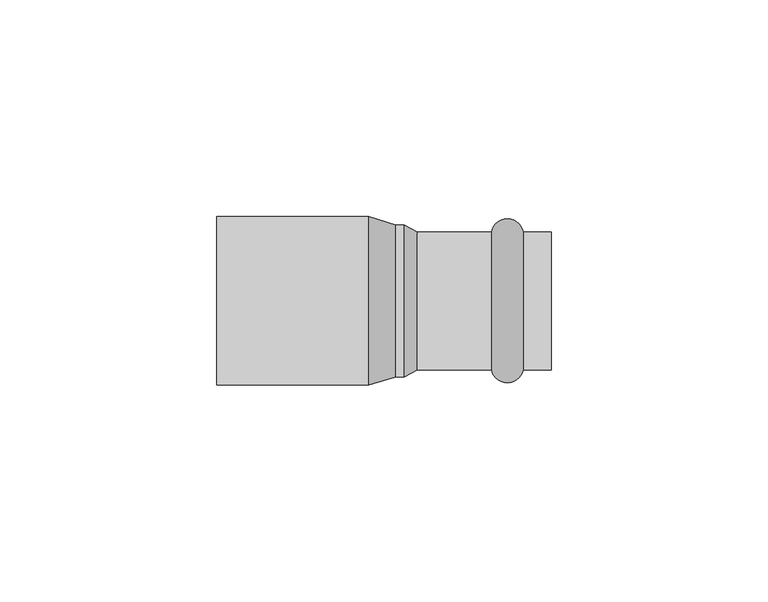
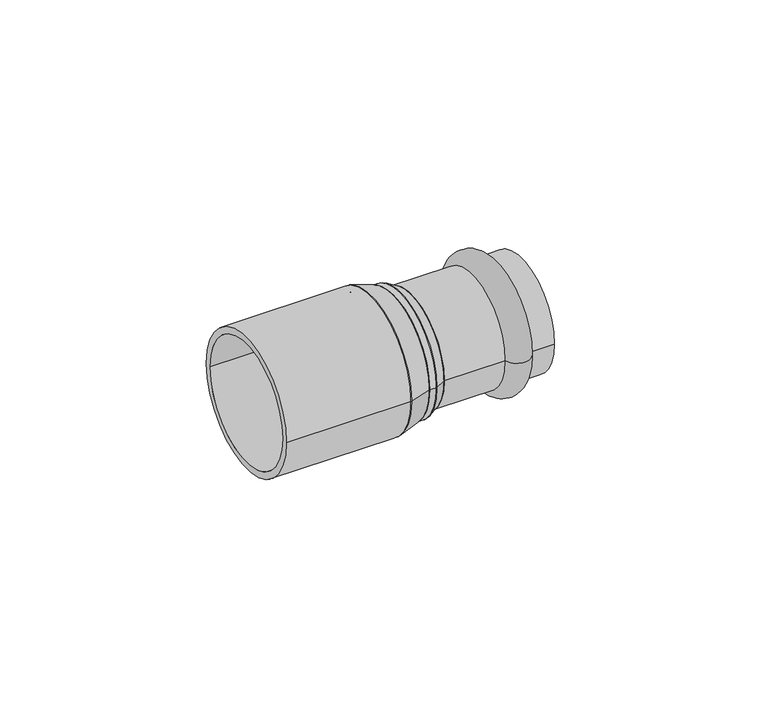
"""IFC4 building model written with IfcOpenShell, lengths in millimetres: pipe fitting geometry, VALTEC_VTi.905.I_Вставка переходная_Нержавеющая сталь : VTi.905.I."""

import ifcopenshell
import ifcopenshell.guid

model = None  # the IFC model being written
_history = None  # IfcOwnerHistory: only IFC2X3 demands one
_inside = {}  # id of a spatial element -> (the spatial element, [elements in it])
_under = {}  # id of a project, library or spatial element -> (it, [spatial elements below it])
_declared = {}  # id of a project -> (the project, [libraries it declares])
_typed = {}  # id of a type object -> (the type object, [elements of that type])
_made_of = {}  # id of a material, layer set ... -> (it, [elements and type objects made of it])


def new_model(schema):
    """Start an empty IFC model of exactly this schema.

    Asked for "IFC4X3", IfcOpenShell would pick the latest addendum, in which some entities
    have other attributes; the version numbers below select the first issue.
    IFC2X3 requires an IfcOwnerHistory on every rooted entity: one is made here for all.
    """
    global model, _history
    if schema == "IFC4X3":
        model = ifcopenshell.file(schema_version=(4, 3, 0, 0))
    else:
        model = ifcopenshell.file(schema=schema)
    _inside.clear()
    _under.clear()
    _declared.clear()
    _typed.clear()
    _made_of.clear()
    _history = None
    if model.schema == "IFC2X3":
        org = make("IfcOrganization", Name="unknown")
        user = make(
            "IfcPersonAndOrganization",
            ThePerson=make("IfcPerson", FamilyName="unknown"),
            TheOrganization=org,
        )
        app = make(
            "IfcApplication",
            ApplicationDeveloper=org,
            Version="unknown",
            ApplicationFullName="unknown",
            ApplicationIdentifier="unknown",
        )
        _history = make(
            "IfcOwnerHistory",
            OwningUser=user,
            OwningApplication=app,
            ChangeAction="ADDED",
            CreationDate=0,
        )
    return model


def make(cls, **values):
    """One entity of the class cls with the attributes given. An attribute that is None is left unset."""
    return model.create_entity(
        cls, **{name: value for name, value in values.items() if value is not None}
    )


def rooted(cls, **values):
    """An entity with a GlobalId (a new one), such as an element, a storey or a relation."""
    return make(cls, GlobalId=ifcopenshell.guid.new(), OwnerHistory=_history, **values)


def si_unit(unit_type, name, prefix=None):
    """IfcSIUnit, for example si_unit("LENGTHUNIT", "METRE", prefix="MILLI")."""
    return make("IfcSIUnit", UnitType=unit_type, Prefix=prefix, Name=name)


def assignment(units):
    """IfcUnitAssignment: the units of a project."""
    return None if units is None else make("IfcUnitAssignment", Units=units)


def point(xyz):
    """IfcCartesianPoint."""
    return None if xyz is None else make("IfcCartesianPoint", Coordinates=xyz)


def direction(xyz):
    """IfcDirection."""
    return None if xyz is None else make("IfcDirection", DirectionRatios=xyz)


def frame(location, z_axis=None, x_axis=None):
    """IfcAxis2Placement3D, a coordinate frame: its origin and axes. An axis left out is left unset."""
    return make(
        "IfcAxis2Placement3D",
        Location=point(location),
        Axis=direction(z_axis),
        RefDirection=direction(x_axis),
    )


def frame_2d(location, x_axis=None):
    """IfcAxis2Placement2D, a coordinate frame in the plane: its origin and x axis."""
    return make(
        "IfcAxis2Placement2D", Location=point(location), RefDirection=direction(x_axis)
    )


def origin():
    """The frame at (0, 0, 0) with its axes left unset."""
    return frame((0.0, 0.0, 0.0))


def origin_2d():
    """The frame at (0, 0) in the plane with its x axis left unset."""
    return frame_2d((0.0, 0.0))


def place(relative_to, where):
    """IfcLocalPlacement: puts the frame where relative to a parent placement (None: the world)."""
    return make(
        "IfcLocalPlacement", PlacementRelTo=relative_to, RelativePlacement=where
    )


def context(
    kind, dimensions, precision=None, world=None, true_north=None, identifier=None
):
    """IfcGeometricRepresentationContext, for example the 3D "Model" context."""
    return make(
        "IfcGeometricRepresentationContext",
        ContextIdentifier=identifier,
        ContextType=kind,
        CoordinateSpaceDimension=dimensions,
        Precision=precision,
        WorldCoordinateSystem=world,
        TrueNorth=true_north,
    )


def project(units=None, contexts=None):
    """IfcProject with its units and contexts."""
    return rooted(
        "IfcProject",
        Name="project",
        RepresentationContexts=contexts,
        UnitsInContext=assignment(units),
    )


def spatial(cls, under=None, at=None, **own):
    """A site, building, storey or space (cls), placed at a placement, below another one or the project."""
    s = rooted(cls, ObjectPlacement=at, **own)
    if under is not None:
        _under.setdefault(under.id(), (under, []))[1].append(s)
    return s


def polyline(points):
    """IfcPolyline through the points."""
    return make("IfcPolyline", Points=[point(p) for p in points])


def circle_curve(where, radius):
    """IfcCircle in the frame where."""
    return make("IfcCircle", Position=where, Radius=radius)


def ellipse_curve(where, semi_axis1, semi_axis2):
    """IfcEllipse in the frame where."""
    return make(
        "IfcEllipse", Position=where, SemiAxis1=semi_axis1, SemiAxis2=semi_axis2
    )


def trimmed(basis, trim1, trim2, sense, master):
    """IfcTrimmedCurve: the piece of a basis curve between two trims."""
    return make(
        "IfcTrimmedCurve",
        BasisCurve=basis,
        Trim1=trim1,
        Trim2=trim2,
        SenseAgreement=sense,
        MasterRepresentation=master,
    )


def segment(curve, same_sense, transition):
    """IfcCompositeCurveSegment."""
    return make(
        "IfcCompositeCurveSegment",
        Transition=transition,
        SameSense=same_sense,
        ParentCurve=curve,
    )


def composite_curve(segments, self_intersect=None):
    """IfcCompositeCurve: segments joined end to end."""
    return make("IfcCompositeCurve", Segments=segments, SelfIntersect=self_intersect)


def outline(outer, holes=None, kind="AREA"):
    """IfcArbitraryClosedProfileDef: a profile drawn as a closed curve; with holes, ...WithVoids."""
    if holes is None:
        return make("IfcArbitraryClosedProfileDef", ProfileType=kind, OuterCurve=outer)
    return make(
        "IfcArbitraryProfileDefWithVoids",
        ProfileType=kind,
        OuterCurve=outer,
        InnerCurves=holes,
    )


def extrude(swept, where, along, depth):
    """IfcExtrudedAreaSolid: the profile swept, set in the frame where, extruded along a direction by depth."""
    return make(
        "IfcExtrudedAreaSolid",
        SweptArea=swept,
        Position=where,
        ExtrudedDirection=direction(along),
        Depth=depth,
    )


def shape(context_of_items, identifier, shape_type, items):
    """IfcShapeRepresentation: the items that make up one representation, for example the "Body"."""
    return make(
        "IfcShapeRepresentation",
        ContextOfItems=context_of_items,
        RepresentationIdentifier=identifier,
        RepresentationType=shape_type,
        Items=items,
    )


def source(mapping_origin, context_of_items, identifier, shape_type, items):
    """IfcRepresentationMap: a shape defined once, which mapped items show again and again."""
    return make(
        "IfcRepresentationMap",
        MappingOrigin=mapping_origin,
        MappedRepresentation=shape(context_of_items, identifier, shape_type, items),
    )


def transform(
    local_origin,
    x_axis=None,
    y_axis=None,
    z_axis=None,
    scale=None,
    scale2=None,
    scale3=None,
    uniform=True,
):
    """IfcCartesianTransformationOperator3D, or its non-uniform kind. x_axis, y_axis, z_axis: its Axis1, 2, 3."""
    if uniform:
        return make(
            "IfcCartesianTransformationOperator3D",
            Axis1=direction(x_axis),
            Axis2=direction(y_axis),
            LocalOrigin=point(local_origin),
            Scale=scale,
            Axis3=direction(z_axis),
        )
    return make(
        "IfcCartesianTransformationOperator3DnonUniform",
        Axis1=direction(x_axis),
        Axis2=direction(y_axis),
        LocalOrigin=point(local_origin),
        Scale=scale,
        Axis3=direction(z_axis),
        Scale2=scale2,
        Scale3=scale3,
    )


def mapped(mapping_source, mapping_target):
    """IfcMappedItem: shows the shape of a source again, moved by a transform."""
    return make(
        "IfcMappedItem", MappingSource=mapping_source, MappingTarget=mapping_target
    )


def made_of(thing, what):
    """Note that an element or type object is made of a material, layer set ...; save() writes the relation."""
    if what is not None:
        _made_of.setdefault(what.id(), (what, []))[1].append(thing)
    return thing


def element(
    cls,
    number,
    at=None,
    inside=None,
    cuts=None,
    type_object=None,
    material=None,
    context=None,
    identifier="Body",
    shape_type=None,
    held_by="IfcProductDefinitionShape",
    body=None,
    shapes=None,
    **own,
):
    """One element of the class cls, such as IfcWall. Its Tag is "e" and its number.

    at: its placement. inside: the storey or other place that contains it. cuts: it is an
    opening in that element (IfcRelVoidsElement). A single representation is given by context,
    identifier, shape_type and body (its items); several are given by shapes. held_by: the class
    of the entity that holds the representations. save() writes the other relations.
    """
    e = rooted(cls, Tag="e%d" % number, ObjectPlacement=at, **own)
    if body is not None:
        shapes = [shape(context, identifier, shape_type, body)]
    if shapes is not None:
        e.Representation = make(held_by, Representations=shapes)
    if inside is not None:
        _inside.setdefault(inside.id(), (inside, []))[1].append(e)
    if cuts is not None:
        rooted(
            "IfcRelVoidsElement", RelatingBuildingElement=cuts, RelatedOpeningElement=e
        )
    if type_object is not None:
        _typed.setdefault(type_object.id(), (type_object, []))[1].append(e)
    return made_of(e, material)


def aggregate(whole, parts):
    """IfcRelAggregates: a whole, such as a stair, and the parts it consists of."""
    return rooted("IfcRelAggregates", RelatingObject=whole, RelatedObjects=parts)


def save(model, path):
    """Write the relations noted so far, then the file.

    IfcRelAggregates (storeys below a building ...), IfcRelContainedInSpatialStructure (elements
    in a storey), IfcRelDefinesByType, IfcRelAssociatesMaterial and IfcRelDeclares: one each for
    every whole, place, type object, material and project.
    """
    for whole, parts in _under.values():
        aggregate(whole, parts)
    for where, things in _inside.values():
        rooted(
            "IfcRelContainedInSpatialStructure",
            RelatedElements=things,
            RelatingStructure=where,
        )
    for kind, things in _typed.values():
        rooted("IfcRelDefinesByType", RelatedObjects=things, RelatingType=kind)
    for what, things in _made_of.values():
        rooted("IfcRelAssociatesMaterial", RelatedObjects=things, RelatingMaterial=what)
    for by, libraries in _declared.values():
        rooted("IfcRelDeclares", RelatingContext=by, RelatedDefinitions=libraries)
    model.write(path)


def plane_surface(at):
    """IfcPlane: the flat surface through the origin of the frame at, square to its z axis."""
    return make("IfcPlane", Position=at)


def cylinder_surface(at, radius):
    """IfcCylindricalSurface: all points at the distance radius from the z axis of the frame at."""
    return make("IfcCylindricalSurface", Position=at, Radius=radius)


def revolved_surface(curve, axis_point, axis_direction):
    """IfcSurfaceOfRevolution: the curve turned about the line through axis_point along axis_direction."""
    return make(
        "IfcSurfaceOfRevolution",
        SweptCurve=make("IfcArbitraryOpenProfileDef", ProfileType="CURVE", Curve=curve),
        AxisPosition=make("IfcAxis1Placement", Location=point(axis_point), Axis=direction(axis_direction)),
    )


def advanced_brep(points, edges, surfaces, faces):
    """IfcAdvancedBrep: a solid bounded by faces that lie on surfaces and meet in shared edges.

    An edge is (start, end): straight between two places in points (the first is 0);
    or (start, end, curve); or (start, end, curve, False) where it runs against its curve.
    A face is (place in surfaces, loops), or (place, loops, False) where it looks against
    its surface's normal. A loop lists edges by number (the first is 1), with a minus sign
    where the edge is run from its end to its start. The first loop is the outer one.
    """
    corners = [point(p) for p in points]
    vertices = [make("IfcVertexPoint", VertexGeometry=c) for c in corners]
    made = []
    for start, end, *more in edges:
        made.append(
            make(
                "IfcEdgeCurve",
                EdgeStart=vertices[start],
                EdgeEnd=vertices[end],
                EdgeGeometry=more[0] if more else make("IfcPolyline", Points=[corners[start], corners[end]]),
                SameSense=more[1] if len(more) > 1 else True,
            )
        )
    hull = []
    for where, loops, *sense in faces:
        bounds = []
        for j, loop in enumerate(loops):
            ring = [make("IfcOrientedEdge", EdgeElement=made[abs(k) - 1], Orientation=k > 0) for k in loop]
            bounds.append(
                make(
                    "IfcFaceOuterBound" if j == 0 else "IfcFaceBound",
                    Bound=make("IfcEdgeLoop", EdgeList=ring),
                    Orientation=True,
                )
            )
        hull.append(make("IfcAdvancedFace", Bounds=bounds, FaceSurface=surfaces[where], SameSense=sense[0] if sense else True))
    return make("IfcAdvancedBrep", Outer=make("IfcClosedShell", CfsFaces=hull))


def pipe_fitting_55004db6(model_context):
    return source(origin(), model_context, "Body", "SolidModel", [
        advanced_brep(
        [(32.1242346, -15.9, 0.0), (24.7757654, -15.9, 0.0), (24.7757654, 15.9, 0.0), (32.1242346, 15.9, 0.0), (38.5, -15.9, 0.0), (38.5, 15.9, 0.0), (38.5, -14.0, 0.0), (38.5, 14.0, 0.0), (7.7, -14.0, 0.0), (7.7, 14.0, 0.0), (7.7, -15.9, 0.0), (7.7, 15.9, 0.0)],
        [
            (0, 1, circle_curve(frame((28.45, -15.15, 0.0), z_axis=(0.0, 0.0, -1.0), x_axis=(-1.0, 0.0, 0.0)), 3.75)),
            (1, 2, circle_curve(frame((24.7757654, 0.0, 0.0), z_axis=(1.0, 0.0, 0.0), x_axis=(0.0, 1.0, 0.0)), 15.9)),
            (2, 3, circle_curve(frame((28.45, 15.15, 0.0), z_axis=(0.0, 0.0, -1.0), x_axis=(-1.0, 0.0, 0.0)), 3.75)),
            (3, 0, circle_curve(frame((32.1242346, 0.0, 0.0), z_axis=(-1.0, 0.0, 0.0), x_axis=(0.0, 1.0, 0.0)), 15.9)),
            (2, 1, circle_curve(frame((24.7757654, 0.0, 0.0), z_axis=(1.0, 0.0, 0.0), x_axis=(0.0, 1.0, 0.0)), 15.9)),
            (0, 3, circle_curve(frame((32.1242346, 0.0, 0.0), z_axis=(-1.0, 0.0, 0.0), x_axis=(0.0, 1.0, 0.0)), 15.9)),
            (4, 0),
            (3, 5),
            (5, 4, circle_curve(frame((38.5, 0.0, 0.0), z_axis=(-1.0, 0.0, 0.0), x_axis=(0.0, 1.0, 0.0)), 15.9)),
            (4, 5, circle_curve(frame((38.5, 0.0, 0.0), z_axis=(-1.0, 0.0, 0.0), x_axis=(0.0, 1.0, 0.0)), 15.9)),
            (6, 4),
            (5, 7),
            (7, 6, circle_curve(frame((38.5, 0.0, 0.0), z_axis=(-1.0, 0.0, 0.0), x_axis=(0.0, 1.0, 0.0)), 14.0)),
            (6, 7, circle_curve(frame((38.5, 0.0, 0.0), z_axis=(-1.0, 0.0, 0.0), x_axis=(0.0, 1.0, 0.0)), 14.0)),
            (8, 6),
            (7, 9),
            (9, 8, circle_curve(frame((7.7, 0.0, 0.0), z_axis=(-1.0, 0.0, 0.0), x_axis=(0.0, 1.0, 0.0)), 14.0)),
            (8, 9, circle_curve(frame((7.7, 0.0, 0.0), z_axis=(-1.0, 0.0, 0.0), x_axis=(0.0, 1.0, 0.0)), 14.0)),
            (10, 8),
            (9, 11),
            (11, 10, circle_curve(frame((7.7, 0.0, 0.0), z_axis=(-1.0, 0.0, 0.0), x_axis=(0.0, 1.0, 0.0)), 15.9)),
            (10, 11, circle_curve(frame((7.7, 0.0, 0.0), z_axis=(-1.0, 0.0, 0.0), x_axis=(0.0, 1.0, 0.0)), 15.9)),
            (1, 10),
            (11, 2),
        ],
        [
            revolved_surface(trimmed(ellipse_curve(frame((28.45, 15.15, 0.0), z_axis=(0.0, 0.0, -1.0), x_axis=(-1.0, 0.0, 0.0)), 3.75, 3.75), [point((24.7757654, 15.9, 0.0))], [point((32.1242346, 15.9, 0.0))], True, "CARTESIAN"), (42.0364426, 0.0, 0.0), (1.0, 0.0, 0.0)),
            cylinder_surface(frame((42.0364426, 0.0, 0.0), z_axis=(1.0, 0.0, 0.0), x_axis=(0.0, 1.0, 0.0)), 15.9),
            plane_surface(frame((38.5, 0.0, 0.0), z_axis=(1.0, 0.0, 0.0), x_axis=(0.0, 1.0, 0.0))),
            revolved_surface(polyline([(38.5, 14.0, 0.0), (7.700000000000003, 14.0, 0.0)]), (42.0364426, 0.0, 0.0), (1.0, 0.0, 0.0)),
            plane_surface(frame((7.7, 0.0, 0.0), z_axis=(-1.0, 0.0, 0.0), x_axis=(0.0, 1.0, 0.0))),
        ],
        [
            (0, [[1, 2, 3, 4]]),
            (0, [[-3, 5, -1, 6]]),
            (1, [[7, -4, 8, 9]]),
            (1, [[-8, -6, -7, 10]]),
            (2, [[11, -9, 12, 13]]),
            (2, [[-12, -10, -11, 14]]),
            (3, [[15, -13, 16, 17]]),
            (3, [[-16, -14, -15, 18]]),
            (4, [[19, -17, 20, 21]]),
            (4, [[-20, -18, -19, 22]]),
            (1, [[23, -21, 24, -2]]),
            (1, [[-24, -22, -23, -5]]),
        ],
    ),
        advanced_brep(
        [(4.7, -17.5, 0.0), (4.7, 17.5, 0.0), (7.7, -15.9, 0.0), (7.7, 15.9, 0.0)],
        [
            (0, 1, circle_curve(frame((4.7, 0.0, 0.0), z_axis=(-1.0, 0.0, 0.0), x_axis=(0.0, -1.0, 0.0)), 17.5)),
            (1, 0, circle_curve(frame((4.7, 0.0, 0.0), z_axis=(-1.0, 0.0, 0.0), x_axis=(0.0, 1.0, 0.0)), 17.5)),
            (2, 3, circle_curve(frame((7.7, 0.0, 0.0), z_axis=(1.0, 0.0, 0.0), x_axis=(0.0, 1.0, 0.0)), 15.9)),
            (3, 2, circle_curve(frame((7.7, 0.0, 0.0), z_axis=(1.0, 0.0, 0.0), x_axis=(0.0, -1.0, 0.0)), 15.9)),
            (2, 0),
            (1, 3),
        ],
        [
            plane_surface(frame((4.7, 0.0, 0.0), z_axis=(-1.0, 0.0, 0.0), x_axis=(0.0, 0.0, 1.0))),
            plane_surface(frame((7.7, 0.0, 0.0), z_axis=(1.0, 0.0, 0.0), x_axis=(0.0, 0.0, 1.0))),
            revolved_surface(polyline([(7.699999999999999, -15.900000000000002, 0.0), (4.700000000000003, -17.5, 0.0)]), (37.5125, 0.0, 0.0), (-1.0, 0.0, 0.0)),
            revolved_surface(polyline([(7.699999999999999, 15.900000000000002, 0.0), (4.700000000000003, 17.5, 0.0)]), (37.5125, 0.0, 0.0), (-1.0, 0.0, 0.0)),
        ],
        [
            (0, [[1, 2]]),
            (1, [[3, 4]]),
            (2, [[-3, 5, -2, 6]]),
            (3, [[-4, -6, -1, -5]]),
        ],
    ),
        extrude(outline(composite_curve([segment(trimmed(circle_curve(origin_2d(), 17.5), [point((-17.5, 0.0))], [point((17.5, 0.0))], False, "CARTESIAN"), True, "CONTINUOUS"), segment(trimmed(circle_curve(origin_2d(), 17.5), [point((17.5, 0.0))], [point((-17.5, 0.0))], False, "CARTESIAN"), True, "CONTINUOUS")], self_intersect=False)), frame((2.7, 0.0, 0.0), z_axis=(1.0, 0.0, 0.0), x_axis=(0.0, 1.0, 0.0)), (0.0, 0.0, 1.0), 2.0),
        advanced_brep(
        [(2.7, -17.5, 0.0), (2.7, 17.5, 0.0), (-3.5, -19.4, 0.0), (-3.5, 19.4, 0.0)],
        [
            (0, 1, circle_curve(frame((2.7, 0.0, 0.0), z_axis=(1.0, 0.0, 0.0), x_axis=(0.0, -1.0, 0.0)), 17.5)),
            (1, 0, circle_curve(frame((2.7, 0.0, 0.0), z_axis=(1.0, 0.0, 0.0), x_axis=(0.0, 1.0, 0.0)), 17.5)),
            (2, 3, circle_curve(frame((-3.5, 0.0, 0.0), z_axis=(-1.0, 0.0, 0.0), x_axis=(0.0, 1.0, 0.0)), 19.4)),
            (3, 2, circle_curve(frame((-3.5, 0.0, 0.0), z_axis=(-1.0, 0.0, 0.0), x_axis=(0.0, -1.0, 0.0)), 19.4)),
            (3, 1),
            (0, 2),
        ],
        [
            plane_surface(frame((2.7, 0.0, 0.0), z_axis=(1.0, 0.0, 0.0), x_axis=(0.0, 0.0, -1.0))),
            plane_surface(frame((-3.5, 0.0, 0.0), z_axis=(-1.0, 0.0, 0.0), x_axis=(0.0, 0.0, -1.0))),
            revolved_surface(polyline([(2.700000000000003, -17.500000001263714, 0.0), (-3.5, -19.4, 0.0)]), (59.8052632, 0.0, 0.0), (-1.0, 0.0, 0.0)),
            revolved_surface(polyline([(2.700000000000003, 17.500000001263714, 0.0), (-3.5, 19.4, 0.0)]), (59.8052632, 0.0, 0.0), (-1.0, 0.0, 0.0)),
        ],
        [
            (0, [[1, 2]]),
            (1, [[3, 4]]),
            (2, [[-4, 5, -1, 6]]),
            (3, [[-3, -6, -2, -5]]),
        ],
    ),
        extrude(outline(composite_curve([segment(trimmed(circle_curve(origin_2d(), 19.4), [point((-19.4, 0.0))], [point((19.4, 0.0))], False, "CARTESIAN"), True, "CONTINUOUS"), segment(trimmed(circle_curve(origin_2d(), 19.4), [point((19.4, 0.0))], [point((-19.4, 0.0))], False, "CARTESIAN"), True, "CONTINUOUS")], self_intersect=False), holes=[composite_curve([segment(trimmed(circle_curve(origin_2d(), 17.5), [point((-17.5, 0.0))], [point((17.5, 0.0))], True, "CARTESIAN"), True, "CONTINUOUS"), segment(trimmed(circle_curve(origin_2d(), 17.5), [point((17.5, 0.0))], [point((-17.5, 0.0))], True, "CARTESIAN"), True, "CONTINUOUS")], self_intersect=False)]), frame((-38.5, 0.0, 0.0), z_axis=(1.0, 0.0, 0.0), x_axis=(0.0, 1.0, 0.0)), (0.0, 0.0, 1.0), 35.0),
    ])


if __name__ == "__main__":
    model = new_model("IFC4")
    model_context = context("Model", 3, world=origin())
    ifc_project = project(units=[si_unit("LENGTHUNIT", "METRE", prefix="MILLI")], contexts=[model_context])
    site = spatial("IfcSite", under=ifc_project)
    building = spatial("IfcBuilding", under=site)
    placement = place(None, origin())
    pipe_fitting_shape = pipe_fitting_55004db6(model_context)
    element("IfcPipeFitting", 1, ObjectType="VALTEC_VTi.905.I_Вставка переходная_Нержавеющая сталь : VTi.905.I", at=placement, inside=building, context=model_context, shape_type="MappedRepresentation", body=[
        mapped(pipe_fitting_shape, transform((0.0, 0.0, 0.0), x_axis=(1.0, 0.0, 0.0), y_axis=(0.0, 1.0, 0.0), z_axis=(0.0, 0.0, 1.0))),
    ])
    save(model, "model.ifc")
